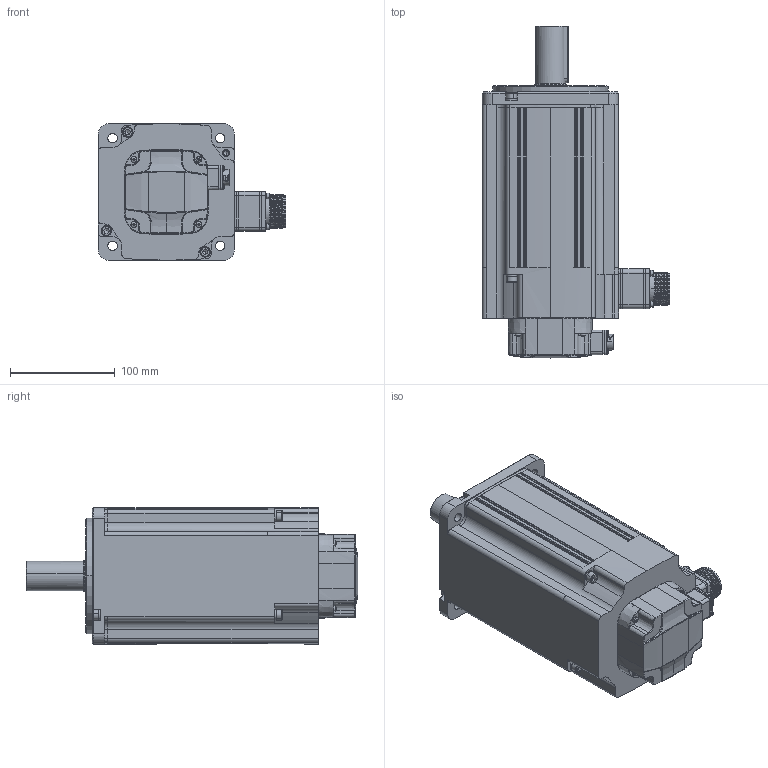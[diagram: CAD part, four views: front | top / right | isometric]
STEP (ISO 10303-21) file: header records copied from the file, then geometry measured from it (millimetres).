
FILE_DESCRIPTION (( 'STEP AP203' ), '1' );
FILE_NAME ('MXL-40D1330LA244.STEP', '2022-07-27T08:36:33', ( '' ), ( '' ), 'SwSTEP 2.0', 'SolidWorks 2018', '' );
FILE_SCHEMA (( 'CONFIG_CONTROL_DESIGN' ));
Products named in the file (1): MXL-40D1330LA244
Bounding box: 178.9 x 316.5 x 130 mm (x, y, z)
Volume: 3428494.7 mm3; surface area: 366582.1 mm2
Topology: 36 solids, 68 shells, 4263 faces, 11320 edges, 7219 vertices
Faces by surface type: plane 1655, cylinder 1192, bspline 718, cone 453, torus 159, sphere 86
Entity records: 165630 total; most frequent: CARTESIAN_POINT 64761, ORIENTED_EDGE 22308, DIRECTION 19204, EDGE_CURVE 11154, VERTEX_POINT 7198, AXIS2_PLACEMENT_3D 6939, LINE 5326, VECTOR 5326
